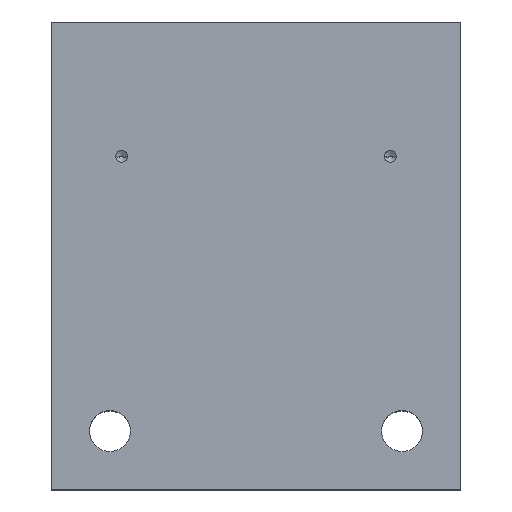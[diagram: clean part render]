
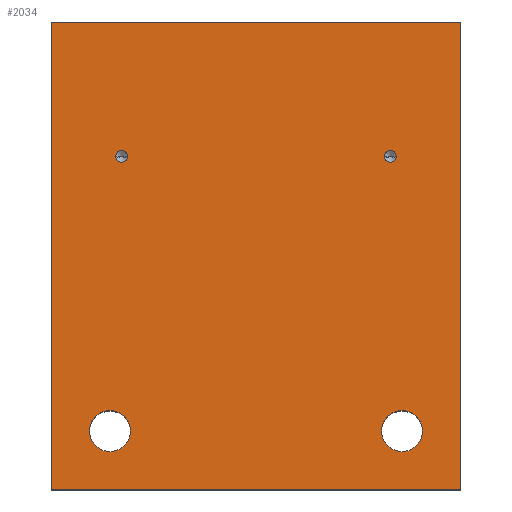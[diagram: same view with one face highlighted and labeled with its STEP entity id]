
A CAD part, top view. The second image highlights one B-rep face of the part: STEP entity #2034.
In plain terms, the highlighted planar face has unit normal (0, 0, 1).
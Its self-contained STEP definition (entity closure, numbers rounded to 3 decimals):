
#19=DIRECTION('',(0.,-1.,0.));
#20=VECTOR('',#19,80.);
#21=CARTESIAN_POINT('',(0.,0.,0.));
#22=LINE('',#21,#20);
#27=DIRECTION('',(-1.,0.,0.));
#28=VECTOR('',#27,70.);
#29=CARTESIAN_POINT('',(70.,0.,0.));
#30=LINE('',#29,#28);
#34=DIRECTION('',(0.,1.,0.));
#35=VECTOR('',#34,80.);
#36=CARTESIAN_POINT('',(70.,-80.,0.));
#37=LINE('',#36,#35);
#41=DIRECTION('',(1.,0.,0.));
#42=VECTOR('',#41,70.);
#43=CARTESIAN_POINT('',(0.,-80.,0.));
#44=LINE('',#43,#42);
#48=CARTESIAN_POINT('',(10.,-70.,0.));
#49=DIRECTION('',(0.,0.,1.));
#50=DIRECTION('',(-1.,0.,0.));
#51=AXIS2_PLACEMENT_3D('',#48,#49,#50);
#56=CARTESIAN_POINT('',(10.,-70.,0.));
#57=DIRECTION('',(0.,0.,1.));
#58=DIRECTION('',(1.,0.,0.));
#59=AXIS2_PLACEMENT_3D('',#56,#57,#58);
#64=CARTESIAN_POINT('',(60.,-70.,0.));
#65=DIRECTION('',(0.,0.,1.));
#66=DIRECTION('',(-1.,0.,0.));
#67=AXIS2_PLACEMENT_3D('',#64,#65,#66);
#72=CARTESIAN_POINT('',(60.,-70.,0.));
#73=DIRECTION('',(0.,0.,1.));
#74=DIRECTION('',(1.,0.,0.));
#75=AXIS2_PLACEMENT_3D('',#72,#73,#74);
#80=CARTESIAN_POINT('',(12.,-23.,0.));
#81=DIRECTION('',(0.,0.,1.));
#82=DIRECTION('',(-1.,0.,0.));
#83=AXIS2_PLACEMENT_3D('',#80,#81,#82);
#88=CARTESIAN_POINT('',(12.,-23.,0.));
#89=DIRECTION('',(0.,0.,1.));
#90=DIRECTION('',(1.,0.,0.));
#91=AXIS2_PLACEMENT_3D('',#88,#89,#90);
#96=CARTESIAN_POINT('',(58.,-23.,0.));
#97=DIRECTION('',(0.,0.,1.));
#98=DIRECTION('',(-1.,0.,0.));
#99=AXIS2_PLACEMENT_3D('',#96,#97,#98);
#104=CARTESIAN_POINT('',(58.,-23.,0.));
#105=DIRECTION('',(0.,0.,1.));
#106=DIRECTION('',(1.,0.,0.));
#107=AXIS2_PLACEMENT_3D('',#104,#105,#106);
#1773=CARTESIAN_POINT('',(0.,0.,0.));
#1774=CARTESIAN_POINT('',(0.,-80.,0.));
#1775=VERTEX_POINT('',#1773);
#1776=VERTEX_POINT('',#1774);
#1777=CARTESIAN_POINT('',(70.,-80.,0.));
#1778=VERTEX_POINT('',#1777);
#1779=CARTESIAN_POINT('',(70.,0.,0.));
#1780=VERTEX_POINT('',#1779);
#1848=CARTESIAN_POINT('',(6.5,-70.,0.));
#1850=VERTEX_POINT('',#1848);
#1852=CARTESIAN_POINT('',(13.5,-70.,0.));
#1854=VERTEX_POINT('',#1852);
#1856=CARTESIAN_POINT('',(56.5,-70.,0.));
#1858=VERTEX_POINT('',#1856);
#1860=CARTESIAN_POINT('',(63.5,-70.,0.));
#1862=VERTEX_POINT('',#1860);
#1869=CARTESIAN_POINT('',(11.,-23.,0.));
#1870=VERTEX_POINT('',#1869);
#1871=CARTESIAN_POINT('',(13.,-23.,0.));
#1872=VERTEX_POINT('',#1871);
#1879=CARTESIAN_POINT('',(57.,-23.,0.));
#1880=VERTEX_POINT('',#1879);
#1881=CARTESIAN_POINT('',(59.,-23.,0.));
#1882=VERTEX_POINT('',#1881);
#1995=CARTESIAN_POINT('',(0.,0.,0.));
#1996=DIRECTION('',(0.,0.,1.));
#1997=DIRECTION('',(1.,0.,0.));
#1998=AXIS2_PLACEMENT_3D('',#1995,#1996,#1997);
#1999=PLANE('',#1998);
#2001=ORIENTED_EDGE('',*,*,#2000,.F.);
#2003=ORIENTED_EDGE('',*,*,#2002,.F.);
#2005=ORIENTED_EDGE('',*,*,#2004,.F.);
#2007=ORIENTED_EDGE('',*,*,#2006,.F.);
#2008=EDGE_LOOP('',(#2001,#2003,#2005,#2007));
#2009=FACE_OUTER_BOUND('',#2008,.F.);
#2011=ORIENTED_EDGE('',*,*,#2010,.T.);
#2013=ORIENTED_EDGE('',*,*,#2012,.T.);
#2014=EDGE_LOOP('',(#2011,#2013));
#2015=FACE_BOUND('',#2014,.F.);
#2017=ORIENTED_EDGE('',*,*,#2016,.T.);
#2019=ORIENTED_EDGE('',*,*,#2018,.T.);
#2020=EDGE_LOOP('',(#2017,#2019));
#2021=FACE_BOUND('',#2020,.F.);
#2023=ORIENTED_EDGE('',*,*,#2022,.T.);
#2025=ORIENTED_EDGE('',*,*,#2024,.T.);
#2026=EDGE_LOOP('',(#2023,#2025));
#2027=FACE_BOUND('',#2026,.F.);
#2029=ORIENTED_EDGE('',*,*,#2028,.T.);
#2031=ORIENTED_EDGE('',*,*,#2030,.T.);
#2032=EDGE_LOOP('',(#2029,#2031));
#2033=FACE_BOUND('',#2032,.F.);
#52=CIRCLE('',#51,3.5);
#60=CIRCLE('',#59,3.5);
#68=CIRCLE('',#67,3.5);
#76=CIRCLE('',#75,3.5);
#84=CIRCLE('',#83,1.);
#92=CIRCLE('',#91,1.);
#100=CIRCLE('',#99,1.);
#108=CIRCLE('',#107,1.);
#2000=EDGE_CURVE('',#1775,#1776,#22,.T.);
#2002=EDGE_CURVE('',#1780,#1775,#30,.T.);
#2004=EDGE_CURVE('',#1778,#1780,#37,.T.);
#2006=EDGE_CURVE('',#1776,#1778,#44,.T.);
#2010=EDGE_CURVE('',#1850,#1854,#52,.T.);
#2012=EDGE_CURVE('',#1854,#1850,#60,.T.);
#2016=EDGE_CURVE('',#1858,#1862,#68,.T.);
#2018=EDGE_CURVE('',#1862,#1858,#76,.T.);
#2022=EDGE_CURVE('',#1870,#1872,#84,.T.);
#2024=EDGE_CURVE('',#1872,#1870,#92,.T.);
#2028=EDGE_CURVE('',#1880,#1882,#100,.T.);
#2030=EDGE_CURVE('',#1882,#1880,#108,.T.);
#2034=ADVANCED_FACE('',(#2009,#2015,#2021,#2027,#2033),#1999,.T.);
